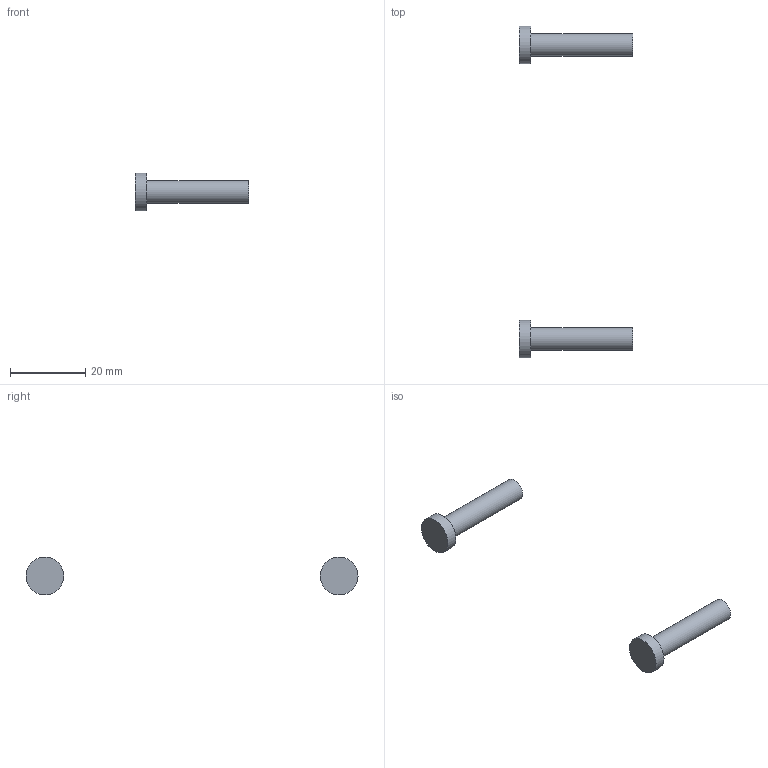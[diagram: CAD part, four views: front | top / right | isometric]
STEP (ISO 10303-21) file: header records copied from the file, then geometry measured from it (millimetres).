
FILE_DESCRIPTION(('Open CASCADE Model'),'2;1');
FILE_NAME('Open CASCADE Shape Model','2026-10-16T03:24:50',('Author'),( 'Open CASCADE'),'Open CASCADE STEP processor 7.9','Open CASCADE 7.9' ,'Unknown');
FILE_SCHEMA(('AUTOMOTIVE_DESIGN { 1 0 10303 214 1 1 1 1 }'));
Length unit declared in the file: millimetre
Products named in the file (3): Open CASCADE STEP translator 7.9 5; Open CASCADE STEP translator 7.9 5.1; Open CASCADE STEP translator 7.9 5.2
Assembly tree (2 placements, depth 2):
  Open CASCADE STEP translator 7.9 5
    Open CASCADE STEP translator 7.9 5.1
    Open CASCADE STEP translator 7.9 5.2
Bounding box: 30 x 88 x 10 mm (x, y, z)
Volume: 1998.1 mm3; surface area: 1520.5 mm2
Topology: 2 solids, 2 shells, 10 faces, 12 edges, 8 vertices
Faces by surface type: plane 6, cylinder 4
Full cylindrical faces by diameter (mm): 6 x2, 10 x2
Entity records: 404 total; most frequent: DIRECTION 70, CARTESIAN_POINT 57, ORIENTED_EDGE 24, PCURVE 24, DEFINITIONAL_REPRESENTATION 24, AXIS2_PLACEMENT_3D 21, LINE 20, VECTOR 20
